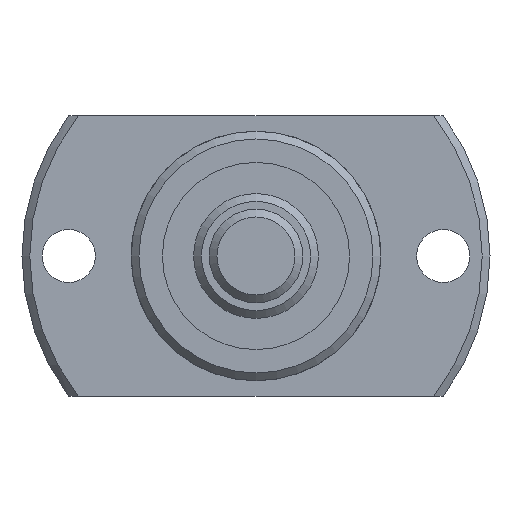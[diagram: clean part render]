
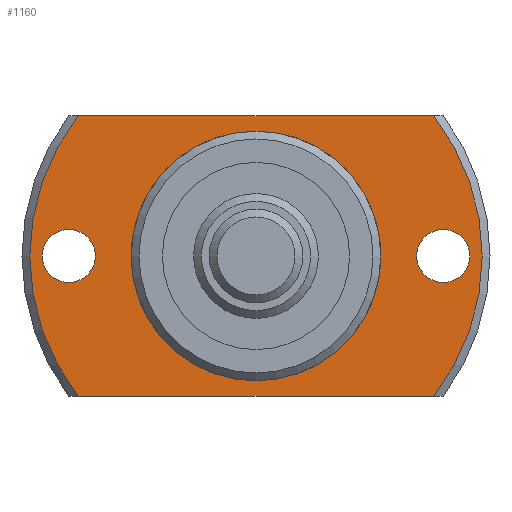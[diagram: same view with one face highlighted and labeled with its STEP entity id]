
A CAD part, left-side view. The second image highlights one B-rep face of the part: STEP entity #1160.
In plain terms, the highlighted planar face has unit normal (-1, 0, 0).
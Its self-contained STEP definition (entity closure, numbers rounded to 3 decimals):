
#121=CIRCLE('',#1287,7.8);
#124=CIRCLE('',#1291,14.5);
#130=CIRCLE('',#1302,1.7);
#131=CIRCLE('',#1303,1.7);
#132=CIRCLE('',#1304,14.5);
#272=ORIENTED_EDGE('',*,*,#547,.T.);
#273=ORIENTED_EDGE('',*,*,#548,.T.);
#274=ORIENTED_EDGE('',*,*,#536,.F.);
#275=ORIENTED_EDGE('',*,*,#549,.T.);
#276=ORIENTED_EDGE('',*,*,#550,.F.);
#277=ORIENTED_EDGE('',*,*,#551,.T.);
#278=ORIENTED_EDGE('',*,*,#530,.T.);
#530=EDGE_CURVE('',#678,#678,#121,.T.);
#536=EDGE_CURVE('',#683,#684,#124,.T.);
#547=EDGE_CURVE('',#693,#693,#130,.T.);
#548=EDGE_CURVE('',#694,#694,#131,.T.);
#549=EDGE_CURVE('',#683,#695,#768,.T.);
#550=EDGE_CURVE('',#696,#695,#132,.T.);
#551=EDGE_CURVE('',#696,#684,#769,.T.);
#678=VERTEX_POINT('',#1898);
#683=VERTEX_POINT('',#1912);
#684=VERTEX_POINT('',#1914);
#693=VERTEX_POINT('',#1948);
#694=VERTEX_POINT('',#1950);
#695=VERTEX_POINT('',#1952);
#696=VERTEX_POINT('',#1954);
#768=LINE('',#1951,#828);
#769=LINE('',#1955,#829);
#828=VECTOR('',#1555,1000.);
#829=VECTOR('',#1558,1000.);
#914=EDGE_LOOP('',(#272));
#915=EDGE_LOOP('',(#273));
#916=EDGE_LOOP('',(#274,#275,#276,#277));
#917=EDGE_LOOP('',(#278));
#1028=FACE_BOUND('',#914,.T.);
#1029=FACE_BOUND('',#915,.T.);
#1030=FACE_BOUND('',#916,.T.);
#1031=FACE_BOUND('',#917,.T.);
#1105=PLANE('',#1301);
#1160=ADVANCED_FACE('',(#1028,#1029,#1030,#1031),#1105,.F.);
#1287=AXIS2_PLACEMENT_3D('',#1897,#1517,#1518);
#1291=AXIS2_PLACEMENT_3D('',#1913,#1527,#1528);
#1301=AXIS2_PLACEMENT_3D('',#1946,#1549,#1550);
#1302=AXIS2_PLACEMENT_3D('',#1947,#1551,#1552);
#1303=AXIS2_PLACEMENT_3D('',#1949,#1553,#1554);
#1304=AXIS2_PLACEMENT_3D('',#1953,#1556,#1557);
#1517=DIRECTION('',(1.,0.,0.));
#1518=DIRECTION('',(0.,0.,-1.));
#1527=DIRECTION('',(1.,0.,0.));
#1528=DIRECTION('',(0.,0.,-1.));
#1549=DIRECTION('',(1.,0.,0.));
#1550=DIRECTION('',(0.,0.,-1.));
#1551=DIRECTION('',(1.,0.,0.));
#1552=DIRECTION('',(0.,0.,-1.));
#1553=DIRECTION('',(1.,0.,0.));
#1554=DIRECTION('',(0.,0.,-1.));
#1555=DIRECTION('',(0.,-1.,0.));
#1556=DIRECTION('',(1.,0.,0.));
#1557=DIRECTION('',(0.,0.,-1.));
#1558=DIRECTION('',(0.,1.,0.));
#1897=CARTESIAN_POINT('',(13.,0.,0.));
#1898=CARTESIAN_POINT('',(13.,0.,-7.8));
#1912=CARTESIAN_POINT('',(13.,11.369,-9.));
#1913=CARTESIAN_POINT('',(13.,0.,0.));
#1914=CARTESIAN_POINT('',(13.,11.369,9.));
#1946=CARTESIAN_POINT('',(13.,7.8,0.));
#1947=CARTESIAN_POINT('',(13.,-12.,0.));
#1948=CARTESIAN_POINT('',(13.,-12.,-1.7));
#1949=CARTESIAN_POINT('',(13.,12.,0.));
#1950=CARTESIAN_POINT('',(13.,12.,-1.7));
#1951=CARTESIAN_POINT('',(13.,7.8,-9.));
#1952=CARTESIAN_POINT('',(13.,-11.369,-9.));
#1953=CARTESIAN_POINT('',(13.,0.,0.));
#1954=CARTESIAN_POINT('',(13.,-11.369,9.));
#1955=CARTESIAN_POINT('',(13.,7.8,9.));
